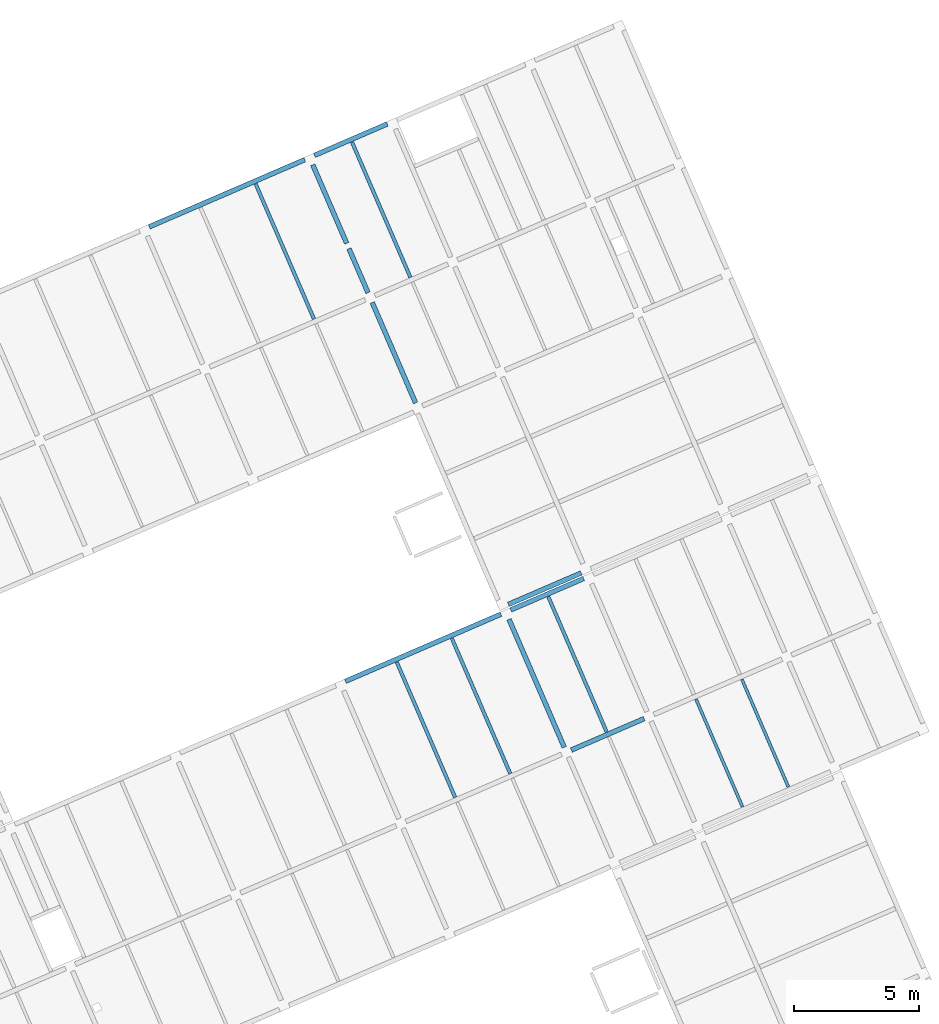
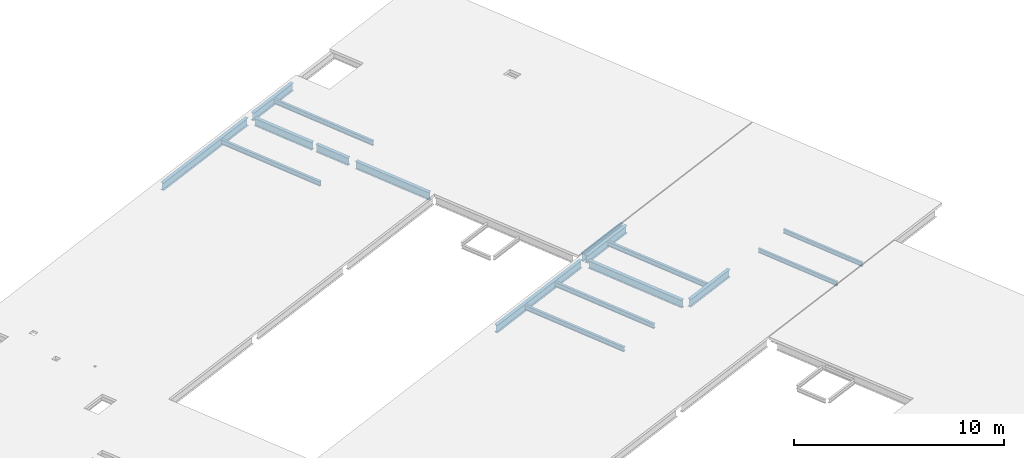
# One storey, part 11 of 15: 17 beams.
"""IFC4 building model written with IfcOpenShell, lengths in metres."""

from ifc_helpers import new_model, entity, si_unit, converted_unit, derived_unit, direction, frame, origin, place, context, subcontext, project, spatial, line, arc, indexed_curve, outline, extrude, source, transform, mapped, material, type_object, type_shapes, element, save


model = new_model("IFC4")

# Units and contexts
model_context = context("Model", 3, precision=1e-05, world=origin(), true_north=direction((6.12323399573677e-17, 1.0)))
body_context = subcontext(model_context, "Body", "Model", "MODEL_VIEW")
ifc_project = project(units=[si_unit("LENGTHUNIT", "METRE"), si_unit("AREAUNIT", "SQUARE_METRE"), si_unit("VOLUMEUNIT", "CUBIC_METRE"), converted_unit("PLANEANGLEUNIT", "DEGREE", entity("IfcPlaneAngleMeasure", 0.0174532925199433), si_unit("PLANEANGLEUNIT", "RADIAN"), dimensions=[0, 0, 0, 0, 0, 0, 0]), si_unit("MASSUNIT", "GRAM", prefix="KILO"), derived_unit("MOMENTOFINERTIAUNIT", [(si_unit("LENGTHUNIT", "METRE"), 4)]), derived_unit("LINEARFORCEUNIT", [(si_unit("MASSUNIT", "GRAM", prefix="KILO"), 1), (si_unit("TIMEUNIT", "SECOND"), -2)]), derived_unit("WARPINGCONSTANTUNIT", [(si_unit("LENGTHUNIT", "METRE"), 6)]), derived_unit("THERMALTRANSMITTANCEUNIT", [(si_unit("MASSUNIT", "GRAM", prefix="KILO"), 1), (si_unit("THERMODYNAMICTEMPERATUREUNIT", "KELVIN"), -1), (si_unit("TIMEUNIT", "SECOND"), -3)]), derived_unit("USERDEFINED", [(si_unit("MASSUNIT", "GRAM", prefix="KILO"), 1), (si_unit("TIMEUNIT", "SECOND"), -2), (si_unit("THERMODYNAMICTEMPERATUREUNIT", "KELVIN"), -1)]), derived_unit("THERMALRESISTANCEUNIT", [(si_unit("MASSUNIT", "GRAM", prefix="KILO"), -1), (si_unit("TIMEUNIT", "SECOND"), 3), (si_unit("THERMODYNAMICTEMPERATUREUNIT", "KELVIN"), 1)])], contexts=[model_context])

# Site, building, storey
site_placement = place(None, origin())
site = spatial("IfcSite", under=ifc_project, at=site_placement, Name="Default", CompositionType="ELEMENT")
building_placement = place(site_placement, frame((12.6613425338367, -82.5732315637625, 317.15), z_axis=(0.0, 0.0, 1.0), x_axis=(-0.396377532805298, 0.918087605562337, 0.0)))
building = spatial("IfcBuilding", under=site, at=building_placement, Name="CESFAM Coyhaique", CompositionType="ELEMENT")
storey_placement = place(building_placement, frame((0.0, 0.0, 8.45000000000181)))
storey = spatial("IfcBuildingStorey", under=building, at=storey_placement, Name="Nivel 3", CompositionType="ELEMENT", Elevation=8.45000000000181)

# Beams
ifc_material = material(Name="Steel, 45-345", Category="Metal")
beam_type_1 = type_object("IfcBeamType", Name="M_W Shapes:W450X190mm", PredefinedType="BEAM", material=ifc_material)
shared_shape_1 = source(origin(), body_context, "Body", "SweptSolid", [
    extrude(outline(indexed_curve([(-0.0949999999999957, -0.225000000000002), (0.0950000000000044, -0.225000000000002), (0.0950000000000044, -0.215350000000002), (0.0105700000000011, -0.215350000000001), (0.00516063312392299, -0.21310936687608), (0.0029200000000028, -0.207700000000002), (0.0029200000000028, 0.207699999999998), (0.00516063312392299, 0.213109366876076), (0.0105700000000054, 0.215349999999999), (0.0950000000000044, 0.215349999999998), (0.0950000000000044, 0.224999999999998), (-0.0949999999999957, 0.224999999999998), (-0.0949999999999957, 0.215349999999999), (-0.0105699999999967, 0.215349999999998), (-0.00516063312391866, 0.213109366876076), (-0.00291999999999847, 0.207699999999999), (-0.00291999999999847, -0.207700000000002), (-0.00516063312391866, -0.21310936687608), (-0.0105699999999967, -0.215350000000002), (-0.0949999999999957, -0.215350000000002)], segments=[line(1, 2, 3, 4), arc(4, 5, 6), line(6, 7), arc(7, 8, 9), line(9, 10, 11, 12, 13, 14), arc(14, 15, 16), line(16, 17), arc(17, 18, 19), line(19, 20, 1)], self_intersect=False)), frame((28.7688534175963, -14.9844495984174, 8.07500000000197), z_axis=(0.0, 1.0, 0.0), x_axis=(-1.0, 0.0, 0.0)), (0.0, 0.0, 1.0), 3.1746),
])
type_shapes(beam_type_1, [shared_shape_1])
beam_1_placement = place(storey_placement, frame((0.0, 0.0, -8.45000000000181)))
element("IfcBeam", 1, at=beam_1_placement, inside=storey, type_object=beam_type_1, Name="M_W Shapes:W450X190mm", ObjectType="M_W Shapes:W450X190mm", PredefinedType="BEAM", context=body_context, shape_type="MappedRepresentation", body=[
    mapped(shared_shape_1, transform((0.0, 0.0, 0.0), scale=1.0)),
])
beam_type_2 = type_object("IfcBeamType", Name="M_W Shapes:W450X190mm", PredefinedType="BEAM", material=ifc_material)
shared_shape_2 = source(origin(), body_context, "Body", "SweptSolid", [
    extrude(outline(indexed_curve([(-0.0949999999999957, -0.225000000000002), (0.0950000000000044, -0.225000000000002), (0.0950000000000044, -0.215350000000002), (0.0105700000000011, -0.215350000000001), (0.00516063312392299, -0.21310936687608), (0.0029200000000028, -0.207700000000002), (0.0029200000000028, 0.207699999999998), (0.00516063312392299, 0.213109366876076), (0.0105700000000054, 0.215349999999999), (0.0950000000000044, 0.215349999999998), (0.0950000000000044, 0.224999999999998), (-0.0949999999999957, 0.224999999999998), (-0.0949999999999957, 0.215349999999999), (-0.0105699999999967, 0.215349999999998), (-0.00516063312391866, 0.213109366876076), (-0.00291999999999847, 0.207699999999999), (-0.00291999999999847, -0.207700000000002), (-0.00516063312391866, -0.21310936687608), (-0.0105699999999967, -0.215350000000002), (-0.0949999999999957, -0.215350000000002)], segments=[line(1, 2, 3, 4), arc(4, 5, 6), line(6, 7), arc(7, 8, 9), line(9, 10, 11, 12, 13, 14), arc(14, 15, 16), line(16, 17), arc(17, 18, 19), line(19, 20, 1)], self_intersect=False)), frame((34.8738534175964, -11.384449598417, 8.07500000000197), z_axis=(0.0, 1.0, 0.0), x_axis=(-1.0, 0.0, 0.0)), (0.0, 0.0, 1.0), 6.7746),
])
type_shapes(beam_type_2, [shared_shape_2])
beam_2_placement = place(storey_placement, frame((0.0, 0.0, -8.45000000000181)))
element("IfcBeam", 2, at=beam_2_placement, inside=storey, type_object=beam_type_2, Name="M_W Shapes:W450X190mm", ObjectType="M_W Shapes:W450X190mm", PredefinedType="BEAM", context=body_context, shape_type="MappedRepresentation", body=[
    mapped(shared_shape_2, transform((0.0, 0.0, 0.0), scale=1.0)),
])
beam_type_3 = type_object("IfcBeamType", Name="M_W Shapes:W450X190mm", PredefinedType="BEAM", material=ifc_material)
shared_shape_3 = source(origin(), body_context, "Body", "SweptSolid", [
    extrude(outline(indexed_curve([(-0.224999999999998, -0.0949999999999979), (-0.215349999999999, -0.0949999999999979), (-0.215349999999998, -0.0105699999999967), (-0.213109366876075, -0.00516063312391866), (-0.207699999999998, -0.0029199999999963), (0.207700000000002, -0.0029199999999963), (0.213109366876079, -0.00516063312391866), (0.215350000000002, -0.0105699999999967), (0.215350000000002, -0.0949999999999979), (0.225000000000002, -0.0949999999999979), (0.225000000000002, 0.0950000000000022), (0.215350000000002, 0.0950000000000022), (0.215350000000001, 0.0105700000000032), (0.213109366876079, 0.00516063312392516), (0.207700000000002, 0.0029200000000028), (-0.207699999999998, 0.0029200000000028), (-0.213109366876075, 0.00516063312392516), (-0.215349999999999, 0.0105700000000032), (-0.215349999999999, 0.0950000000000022), (-0.224999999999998, 0.0950000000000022)], segments=[line(1, 2, 3), arc(3, 4, 5), line(5, 6), arc(6, 7, 8), line(8, 9, 10, 11, 12, 13), arc(13, 14, 15), line(15, 16), arc(16, 17, 18), line(18, 19, 20, 1)], self_intersect=False)), frame((28.981553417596, -11.5971495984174, 8.07500000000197), z_axis=(1.0, 0.0, 0.0), x_axis=(0.0, 0.0, -1.0)), (0.0, 0.0, 1.0), 5.5746),
])
type_shapes(beam_type_3, [shared_shape_3])
beam_3_placement = place(storey_placement, frame((0.0, 0.0, -8.45000000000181)))
element("IfcBeam", 3, at=beam_3_placement, inside=storey, type_object=beam_type_3, Name="M_W Shapes:W450X190mm", ObjectType="M_W Shapes:W450X190mm", PredefinedType="BEAM", context=body_context, shape_type="MappedRepresentation", body=[
    mapped(shared_shape_3, transform((0.0, 0.0, 0.0), scale=1.0)),
])
beam_type_4 = type_object("IfcBeamType", Name="M_W Shapes:W450X190mm", PredefinedType="BEAM", material=ifc_material)
shared_shape_4 = source(origin(), body_context, "Body", "SweptSolid", [
    extrude(outline(indexed_curve([(-0.0950000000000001, -0.225000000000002), (0.0950000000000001, -0.225000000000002), (0.0950000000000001, -0.215350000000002), (0.0105699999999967, -0.215350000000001), (0.00516063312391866, -0.21310936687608), (0.00291999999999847, -0.207700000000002), (0.00291999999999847, 0.207699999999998), (0.00516063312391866, 0.213109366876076), (0.0105700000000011, 0.215349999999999), (0.0950000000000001, 0.215349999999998), (0.0950000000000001, 0.224999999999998), (-0.0950000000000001, 0.224999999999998), (-0.0950000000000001, 0.215349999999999), (-0.0105700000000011, 0.215349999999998), (-0.00516063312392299, 0.213109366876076), (-0.0029200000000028, 0.207699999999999), (-0.0029200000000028, -0.207700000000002), (-0.00516063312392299, -0.21310936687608), (-0.0105700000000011, -0.215350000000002), (-0.0950000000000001, -0.215350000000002)], segments=[line(1, 2, 3, 4), arc(4, 5, 6), line(6, 7), arc(7, 8, 9), line(9, 10, 11, 12, 13, 14), arc(14, 15, 16), line(16, 17), arc(17, 18, 19), line(19, 20, 1)], self_intersect=False)), frame((34.8738534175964, -14.9844495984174, 8.07500000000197), z_axis=(0.0, 1.0, 0.0), x_axis=(-1.0, 0.0, 0.0)), (0.0, 0.0, 1.0), 3.1746),
])
type_shapes(beam_type_4, [shared_shape_4])
beam_4_placement = place(storey_placement, frame((0.0, 0.0, -8.45000000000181)))
element("IfcBeam", 4, at=beam_4_placement, inside=storey, type_object=beam_type_4, Name="M_W Shapes:W450X190mm", ObjectType="M_W Shapes:W450X190mm", PredefinedType="BEAM", context=body_context, shape_type="MappedRepresentation", body=[
    mapped(shared_shape_4, transform((0.0, 0.0, 0.0), scale=1.0)),
])
beam_type_5 = type_object("IfcBeamType", Name="M_W Shapes:W450X190mm", PredefinedType="BEAM", material=ifc_material)
shared_shape_5 = source(origin(), body_context, "Body", "SweptSolid", [
    extrude(outline(indexed_curve([(-0.0949999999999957, -0.225000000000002), (0.0950000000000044, -0.225000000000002), (0.0950000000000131, -0.215350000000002), (0.0105700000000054, -0.215350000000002), (0.00516063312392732, -0.213109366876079), (0.00292000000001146, -0.207700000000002), (0.0029200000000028, 0.207699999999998), (0.00516063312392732, 0.213109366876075), (0.0105700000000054, 0.215349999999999), (0.0950000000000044, 0.215349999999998), (0.0950000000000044, 0.224999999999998), (-0.0949999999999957, 0.224999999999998), (-0.0949999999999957, 0.215349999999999), (-0.0105699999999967, 0.215349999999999), (-0.00516063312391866, 0.213109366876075), (-0.00291999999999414, 0.207699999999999), (-0.00291999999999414, -0.207700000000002), (-0.00516063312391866, -0.213109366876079), (-0.0105699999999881, -0.215350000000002), (-0.0949999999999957, -0.215350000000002)], segments=[line(1, 2, 3, 4), arc(4, 5, 6), line(6, 7), arc(7, 8, 9), line(9, 10, 11, 12, 13, 14), arc(14, 15, 16), line(16, 17), arc(17, 18, 19), line(19, 20, 1)], self_intersect=False)), frame((54.6738534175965, -14.9844495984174, 8.07500000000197), z_axis=(0.0, 1.0, 0.0), x_axis=(-1.0, 0.0, 0.0)), (0.0, 0.0, 1.0), 3.1746),
])
type_shapes(beam_type_5, [shared_shape_5])
beam_5_placement = place(storey_placement, frame((0.0, 0.0, -8.45000000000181)))
element("IfcBeam", 5, at=beam_5_placement, inside=storey, type_object=beam_type_5, Name="M_W Shapes:W450X190mm", ObjectType="M_W Shapes:W450X190mm", PredefinedType="BEAM", context=body_context, shape_type="MappedRepresentation", body=[
    mapped(shared_shape_5, transform((0.0, 0.0, 0.0), scale=1.0)),
])
beam_type_6 = type_object("IfcBeamType", Name="M_W Shapes:W450X190mm", PredefinedType="BEAM", material=ifc_material)
shared_shape_6 = source(origin(), body_context, "Body", "SweptSolid", [
    extrude(outline(indexed_curve([(-0.0950000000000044, -0.225000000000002), (0.0949999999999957, -0.225000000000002), (0.0950000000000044, -0.215350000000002), (0.0105699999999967, -0.215350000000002), (0.00516063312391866, -0.213109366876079), (0.0029200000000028, -0.207700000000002), (0.00291999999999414, 0.207699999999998), (0.00516063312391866, 0.213109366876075), (0.0105699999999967, 0.215349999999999), (0.0949999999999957, 0.215349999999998), (0.0949999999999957, 0.224999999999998), (-0.0950000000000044, 0.224999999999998), (-0.0950000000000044, 0.215349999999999), (-0.0105700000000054, 0.215349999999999), (-0.00516063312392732, 0.213109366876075), (-0.0029200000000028, 0.207699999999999), (-0.0029200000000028, -0.207700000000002), (-0.00516063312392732, -0.213109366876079), (-0.0105699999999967, -0.215350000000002), (-0.0950000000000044, -0.215350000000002)], segments=[line(1, 2, 3, 4), arc(4, 5, 6), line(6, 7), arc(7, 8, 9), line(9, 10, 11, 12, 13, 14), arc(14, 15, 16), line(16, 17), arc(17, 18, 19), line(19, 20, 1)], self_intersect=False)), frame((54.6688534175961, -11.384449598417, 8.07500000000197), z_axis=(0.0, 1.0, 0.0), x_axis=(-1.0, 0.0, 0.0)), (0.0, 0.0, 1.0), 6.7746),
])
type_shapes(beam_type_6, [shared_shape_6])
beam_6_placement = place(storey_placement, frame((0.0, 0.0, -8.45000000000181)))
element("IfcBeam", 6, at=beam_6_placement, inside=storey, type_object=beam_type_6, Name="M_W Shapes:W450X190mm", ObjectType="M_W Shapes:W450X190mm", PredefinedType="BEAM", context=body_context, shape_type="MappedRepresentation", body=[
    mapped(shared_shape_6, transform((0.0, 0.0, 0.0), scale=1.0)),
])
beam_type_7 = type_object("IfcBeamType", Name="M_W Shapes:W450X190mm", PredefinedType="BEAM", material=ifc_material)
shared_shape_7 = source(origin(), body_context, "Body", "SweptSolid", [
    extrude(outline(indexed_curve([(-0.224999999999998, -0.0949999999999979), (-0.215349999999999, -0.0949999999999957), (-0.215349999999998, -0.0105699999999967), (-0.213109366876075, -0.00516063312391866), (-0.207699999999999, -0.0029199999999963), (0.207700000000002, -0.0029199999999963), (0.213109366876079, -0.00516063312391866), (0.215350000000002, -0.0105699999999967), (0.215350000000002, -0.0949999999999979), (0.225000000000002, -0.0949999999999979), (0.225000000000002, 0.0950000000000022), (0.215350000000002, 0.0950000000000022), (0.215350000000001, 0.0105700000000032), (0.213109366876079, 0.00516063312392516), (0.207700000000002, 0.0029200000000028), (-0.207699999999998, 0.0029200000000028), (-0.213109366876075, 0.00516063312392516), (-0.215349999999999, 0.0105700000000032), (-0.215349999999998, 0.0950000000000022), (-0.224999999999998, 0.0950000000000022)], segments=[line(1, 2, 3), arc(3, 4, 5), line(5, 6), arc(6, 7, 8), line(8, 9, 10, 11, 12, 13), arc(13, 14, 15), line(15, 16), arc(16, 17, 18), line(18, 19, 20, 1)], self_intersect=False)), frame((43.9815534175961, -11.5971495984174, 8.07500000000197), z_axis=(1.0, 0.0, 0.0), x_axis=(0.0, 0.0, -1.0)), (0.0, 0.0, 1.0), 4.3746),
])
type_shapes(beam_type_7, [shared_shape_7])
beam_7_placement = place(storey_placement, frame((0.0, 0.0, -8.45000000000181)))
element("IfcBeam", 7, at=beam_7_placement, inside=storey, type_object=beam_type_7, Name="M_W Shapes:W450X190mm", ObjectType="M_W Shapes:W450X190mm", PredefinedType="BEAM", context=body_context, shape_type="MappedRepresentation", body=[
    mapped(shared_shape_7, transform((0.0, 0.0, 0.0), scale=1.0)),
])
beam_type_8 = type_object("IfcBeamType", Name="M_W Shapes:W450X190mm", PredefinedType="BEAM", material=ifc_material)
shared_shape_8 = source(origin(), body_context, "Body", "SweptSolid", [
    extrude(outline(indexed_curve([(-0.224999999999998, -0.0949999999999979), (-0.215349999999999, -0.0949999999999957), (-0.215349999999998, -0.0105699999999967), (-0.213109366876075, -0.00516063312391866), (-0.207699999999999, -0.0029199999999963), (0.207700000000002, -0.0029199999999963), (0.213109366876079, -0.00516063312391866), (0.215350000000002, -0.0105699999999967), (0.215350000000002, -0.0949999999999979), (0.225000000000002, -0.0949999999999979), (0.225000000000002, 0.0950000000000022), (0.215350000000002, 0.0950000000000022), (0.215350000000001, 0.0105700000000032), (0.213109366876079, 0.00516063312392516), (0.207700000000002, 0.0029200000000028), (-0.207699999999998, 0.0029200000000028), (-0.213109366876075, 0.00516063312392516), (-0.215349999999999, 0.0105700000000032), (-0.215349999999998, 0.0950000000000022), (-0.224999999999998, 0.0950000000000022)], segments=[line(1, 2, 3), arc(3, 4, 5), line(5, 6), arc(6, 7, 8), line(8, 9, 10, 11, 12, 13), arc(13, 14, 15), line(15, 16), arc(16, 17, 18), line(18, 19, 20, 1)], self_intersect=False)), frame((48.7815534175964, -11.5971495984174, 8.07500000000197), z_axis=(1.0, 0.0, 0.0), x_axis=(0.0, 0.0, -1.0)), (0.0, 0.0, 1.0), 1.9246),
])
type_shapes(beam_type_8, [shared_shape_8])
beam_8_placement = place(storey_placement, frame((0.0, 0.0, -8.45000000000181)))
element("IfcBeam", 8, at=beam_8_placement, inside=storey, type_object=beam_type_8, Name="M_W Shapes:W450X190mm", ObjectType="M_W Shapes:W450X190mm", PredefinedType="BEAM", context=body_context, shape_type="MappedRepresentation", body=[
    mapped(shared_shape_8, transform((0.0, 0.0, 0.0), scale=1.0)),
])
beam_type_9 = type_object("IfcBeamType", Name="M_W Shapes:W450X190mm", PredefinedType="BEAM", material=ifc_material)
shared_shape_9 = source(origin(), body_context, "Body", "SweptSolid", [
    extrude(outline(indexed_curve([(-0.0950000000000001, -0.225000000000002), (0.0950000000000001, -0.225000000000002), (0.0950000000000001, -0.215350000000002), (0.0105699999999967, -0.215350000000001), (0.00516063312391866, -0.21310936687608), (0.00291999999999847, -0.207700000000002), (0.00291999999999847, 0.207699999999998), (0.00516063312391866, 0.213109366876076), (0.0105700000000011, 0.215349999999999), (0.0950000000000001, 0.215349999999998), (0.0950000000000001, 0.224999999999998), (-0.0950000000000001, 0.224999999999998), (-0.0950000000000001, 0.215349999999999), (-0.0105700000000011, 0.215349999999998), (-0.00516063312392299, 0.213109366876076), (-0.0029200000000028, 0.207699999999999), (-0.0029200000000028, -0.207700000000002), (-0.00516063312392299, -0.21310936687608), (-0.0105700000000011, -0.215350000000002), (-0.0950000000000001, -0.215350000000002)], segments=[line(1, 2, 3, 4), arc(4, 5, 6), line(6, 7), arc(7, 8, 9), line(9, 10, 11, 12, 13, 14), arc(14, 15, 16), line(16, 17), arc(17, 18, 19), line(19, 20, 1)], self_intersect=False)), frame((35.1138534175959, -14.9844495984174, 8.07500000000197), z_axis=(0.0, 1.0, 0.0), x_axis=(-1.0, 0.0, 0.0)), (0.0, 0.0, 1.0), 3.1746),
])
type_shapes(beam_type_9, [shared_shape_9])
beam_9_placement = place(storey_placement, frame((0.0, 0.0, -8.45000000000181)))
element("IfcBeam", 9, at=beam_9_placement, inside=storey, type_object=beam_type_9, Name="M_W Shapes:W450X190mm", ObjectType="M_W Shapes:W450X190mm", PredefinedType="BEAM", context=body_context, shape_type="MappedRepresentation", body=[
    mapped(shared_shape_9, transform((0.0, 0.0, 0.0), scale=1.0)),
])
beam_type_10 = type_object("IfcBeamType", Name="M_W Shapes:W450X190mm", PredefinedType="BEAM", material=ifc_material)
shared_shape_10 = source(origin(), body_context, "Body", "SweptSolid", [
    extrude(outline(indexed_curve([(-0.224999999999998, -0.0949999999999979), (-0.215349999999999, -0.0949999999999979), (-0.215349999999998, -0.0105699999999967), (-0.213109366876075, -0.00516063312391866), (-0.207699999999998, -0.0029199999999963), (0.207700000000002, -0.0029199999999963), (0.213109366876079, -0.00516063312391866), (0.215350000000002, -0.0105699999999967), (0.215350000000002, -0.0949999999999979), (0.225000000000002, -0.0949999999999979), (0.225000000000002, 0.0950000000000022), (0.215350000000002, 0.0950000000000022), (0.215350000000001, 0.0105700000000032), (0.213109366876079, 0.00516063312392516), (0.207700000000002, 0.0029200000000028), (-0.207699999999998, 0.0029200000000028), (-0.213109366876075, 0.00516063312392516), (-0.215349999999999, 0.0105700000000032), (-0.215349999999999, 0.0950000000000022), (-0.224999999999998, 0.0950000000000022)], segments=[line(1, 2, 3), arc(3, 4, 5), line(5, 6), arc(6, 7, 8), line(8, 9, 10, 11, 12, 13), arc(13, 14, 15), line(15, 16), arc(16, 17, 18), line(18, 19, 20, 1)], self_intersect=False)), frame((50.9315534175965, -11.5971495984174, 8.07500000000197), z_axis=(1.0, 0.0, 0.0), x_axis=(0.0, 0.0, -1.0)), (0.0, 0.0, 1.0), 3.4246),
])
type_shapes(beam_type_10, [shared_shape_10])
beam_10_placement = place(storey_placement, frame((0.0, 0.0, -8.45000000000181)))
element("IfcBeam", 10, at=beam_10_placement, inside=storey, type_object=beam_type_10, Name="M_W Shapes:W450X190mm", ObjectType="M_W Shapes:W450X190mm", PredefinedType="BEAM", context=body_context, shape_type="MappedRepresentation", body=[
    mapped(shared_shape_10, transform((0.0, 0.0, 0.0), scale=1.0)),
])
beam_type_11 = type_object("IfcBeamType", Name="M_W Shapes:W270X140mm", PredefinedType="BEAM", material=ifc_material)
shared_shape_11 = source(origin(), body_context, "Body", "SweptSolid", [
    extrude(outline(indexed_curve([(-0.135000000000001, -0.0699999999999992), (-0.125350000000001, -0.0699999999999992), (-0.125350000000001, -0.0105699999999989), (-0.123109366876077, -0.00516063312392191), (-0.117700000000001, -0.00291999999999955), (0.117699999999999, -0.00291999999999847), (0.123109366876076, -0.00516063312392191), (0.12535, -0.0105699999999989), (0.12535, -0.0699999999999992), (0.135, -0.0699999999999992), (0.135, 0.0700000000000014), (0.12535, 0.0700000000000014), (0.12535, 0.0105700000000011), (0.123109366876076, 0.00516063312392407), (0.117699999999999, 0.00292000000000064), (-0.1177, 0.00292000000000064), (-0.123109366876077, 0.00516063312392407), (-0.125350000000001, 0.01057), (-0.125350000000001, 0.0700000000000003), (-0.135, 0.0700000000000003)], segments=[line(1, 2, 3), arc(3, 4, 5), line(5, 6), arc(6, 7, 8), line(8, 9, 10, 11, 12, 13), arc(13, 14, 15), line(15, 16), arc(16, 17, 18), line(18, 19, 20, 1)], self_intersect=False)), frame((28.8765534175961, -6.79727015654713, 8.16500000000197), z_axis=(1.0, 0.0, 0.0), x_axis=(0.0, 0.0, -1.0)), (0.0, 0.0, 1.0), 5.8896),
])
type_shapes(beam_type_11, [shared_shape_11])
beam_11_placement = place(storey_placement, frame((0.0, 0.0, -8.45000000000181)))
element("IfcBeam", 11, at=beam_11_placement, inside=storey, type_object=beam_type_11, Name="M_W Shapes:W270X140mm", ObjectType="M_W Shapes:W270X140mm", PredefinedType="BEAM", context=body_context, shape_type="MappedRepresentation", body=[
    mapped(shared_shape_11, transform((0.0, 0.0, 0.0), scale=1.0)),
])
beam_type_12 = type_object("IfcBeamType", Name="M_W Shapes:W270X140mm", PredefinedType="BEAM", material=ifc_material)
shared_shape_12 = source(origin(), body_context, "Body", "SweptSolid", [
    extrude(outline(indexed_curve([(-0.135000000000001, -0.0699999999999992), (-0.125350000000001, -0.0699999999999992), (-0.125350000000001, -0.0105699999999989), (-0.123109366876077, -0.00516063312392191), (-0.117700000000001, -0.00291999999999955), (0.117699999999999, -0.00291999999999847), (0.123109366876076, -0.00516063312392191), (0.12535, -0.0105699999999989), (0.12535, -0.0699999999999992), (0.135, -0.0699999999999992), (0.135, 0.0700000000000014), (0.12535, 0.0700000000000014), (0.12535, 0.0105700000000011), (0.123109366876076, 0.00516063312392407), (0.117699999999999, 0.00292000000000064), (-0.1177, 0.00292000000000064), (-0.123109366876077, 0.00516063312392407), (-0.125350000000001, 0.01057), (-0.125350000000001, 0.0700000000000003), (-0.135, 0.0700000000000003)], segments=[line(1, 2, 3), arc(3, 4, 5), line(5, 6), arc(6, 7, 8), line(8, 9, 10, 11, 12, 13), arc(13, 14, 15), line(15, 16), arc(16, 17, 18), line(18, 19, 20, 1)], self_intersect=False)), frame((28.8765534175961, -9.19727015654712, 8.16500000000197), z_axis=(1.0, 0.0, 0.0), x_axis=(0.0, 0.0, -1.0)), (0.0, 0.0, 1.0), 5.8896),
])
type_shapes(beam_type_12, [shared_shape_12])
beam_12_placement = place(storey_placement, frame((0.0, 0.0, -8.45000000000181)))
element("IfcBeam", 12, at=beam_12_placement, inside=storey, type_object=beam_type_12, Name="M_W Shapes:W270X140mm", ObjectType="M_W Shapes:W270X140mm", PredefinedType="BEAM", context=body_context, shape_type="MappedRepresentation", body=[
    mapped(shared_shape_12, transform((0.0, 0.0, 0.0), scale=1.0)),
])
beam_type_13 = type_object("IfcBeamType", Name="M_W Shapes:W270X140mm", PredefinedType="BEAM", material=ifc_material)
shared_shape_13 = source(origin(), body_context, "Body", "SweptSolid", [
    extrude(outline(indexed_curve([(-0.135000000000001, -0.0699999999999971), (-0.125350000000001, -0.0699999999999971), (-0.12535, -0.0105699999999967), (-0.123109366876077, -0.00516063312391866), (-0.117700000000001, -0.0029199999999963), (0.117699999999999, -0.0029199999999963), (0.123109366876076, -0.00516063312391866), (0.12535, -0.0105699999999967), (0.12535, -0.0699999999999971), (0.135, -0.0699999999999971), (0.135, 0.0700000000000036), (0.12535, 0.0700000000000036), (0.125349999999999, 0.0105700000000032), (0.123109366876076, 0.00516063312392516), (0.117699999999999, 0.0029200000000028), (-0.1177, 0.0029200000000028), (-0.123109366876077, 0.00516063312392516), (-0.125350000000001, 0.0105700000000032), (-0.125350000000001, 0.0700000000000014), (-0.135, 0.0700000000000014)], segments=[line(1, 2, 3), arc(3, 4, 5), line(5, 6), arc(6, 7, 8), line(8, 9, 10, 11, 12, 13), arc(13, 14, 15), line(15, 16), arc(16, 17, 18), line(18, 19, 20, 1)], self_intersect=False)), frame((28.8765534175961, -13.3972701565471, 8.16500000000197), z_axis=(1.0, 0.0, 0.0), x_axis=(0.0, 0.0, -1.0)), (0.0, 0.0, 1.0), 5.8896),
])
type_shapes(beam_type_13, [shared_shape_13])
beam_13_placement = place(storey_placement, frame((0.0, 0.0, -8.45000000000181)))
element("IfcBeam", 13, at=beam_13_placement, inside=storey, type_object=beam_type_13, Name="M_W Shapes:W270X140mm", ObjectType="M_W Shapes:W270X140mm", PredefinedType="BEAM", context=body_context, shape_type="MappedRepresentation", body=[
    mapped(shared_shape_13, transform((0.0, 0.0, 0.0), scale=1.0)),
])
beam_type_14 = type_object("IfcBeamType", Name="M_W Shapes:W240X120mm", PredefinedType="BEAM", material=ifc_material)
shared_shape_14 = source(origin(), body_context, "Body", "SweptSolid", [
    extrude(outline(indexed_curve([(-0.119999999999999, -0.0599999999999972), (-0.11035, -0.0599999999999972), (-0.110349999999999, -0.0105699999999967), (-0.108109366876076, -0.00516063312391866), (-0.102699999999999, -0.0029199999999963), (0.1027, -0.0029199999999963), (0.108109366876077, -0.00516063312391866), (0.11035, -0.0105699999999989), (0.110350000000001, -0.0599999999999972), (0.120000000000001, -0.0599999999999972), (0.120000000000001, 0.0600000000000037), (0.11035, 0.0600000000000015), (0.11035, 0.0105700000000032), (0.108109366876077, 0.00516063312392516), (0.102699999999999, 0.0029200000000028), (-0.102699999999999, 0.0029200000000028), (-0.108109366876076, 0.00516063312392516), (-0.11035, 0.0105700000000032), (-0.110349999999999, 0.0600000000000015), (-0.119999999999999, 0.0600000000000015)], segments=[line(1, 2, 3), arc(3, 4, 5), line(5, 6), arc(6, 7, 8), line(8, 9, 10, 11, 12, 13), arc(13, 14, 15), line(15, 16), arc(16, 17, 18), line(18, 19, 20, 1)], self_intersect=False)), frame((23.9715534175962, -17.1972701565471, 8.18000000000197), z_axis=(1.0, 0.0, 0.0), x_axis=(0.0, 0.0, -1.0)), (0.0, 0.0, 1.0), 4.6896),
])
type_shapes(beam_type_14, [shared_shape_14])
beam_14_placement = place(storey_placement, frame((0.0, 0.0, -8.45000000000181)))
element("IfcBeam", 14, at=beam_14_placement, inside=storey, type_object=beam_type_14, Name="M_W Shapes:W240X120mm", ObjectType="M_W Shapes:W240X120mm", PredefinedType="BEAM", context=body_context, shape_type="MappedRepresentation", body=[
    mapped(shared_shape_14, transform((0.0, 0.0, 0.0), scale=1.0)),
])
beam_type_15 = type_object("IfcBeamType", Name="M_W Shapes:W240X120mm", PredefinedType="BEAM", material=ifc_material)
shared_shape_15 = source(origin(), body_context, "Body", "SweptSolid", [
    extrude(outline(indexed_curve([(-0.119999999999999, -0.0599999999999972), (-0.11035, -0.0599999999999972), (-0.110349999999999, -0.0105699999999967), (-0.108109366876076, -0.00516063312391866), (-0.102699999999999, -0.0029199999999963), (0.1027, -0.0029199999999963), (0.108109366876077, -0.00516063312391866), (0.11035, -0.0105699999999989), (0.110350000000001, -0.0599999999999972), (0.120000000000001, -0.0599999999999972), (0.120000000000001, 0.0600000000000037), (0.11035, 0.0600000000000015), (0.11035, 0.0105700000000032), (0.108109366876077, 0.00516063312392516), (0.102699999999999, 0.0029200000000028), (-0.102699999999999, 0.0029200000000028), (-0.108109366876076, 0.00516063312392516), (-0.11035, 0.0105700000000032), (-0.110349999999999, 0.0600000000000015), (-0.119999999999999, 0.0600000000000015)], segments=[line(1, 2, 3), arc(3, 4, 5), line(5, 6), arc(6, 7, 8), line(8, 9, 10, 11, 12, 13), arc(13, 14, 15), line(15, 16), arc(16, 17, 18), line(18, 19, 20, 1)], self_intersect=False)), frame((23.9715534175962, -19.1972701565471, 8.18000000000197), z_axis=(1.0, 0.0, 0.0), x_axis=(0.0, 0.0, -1.0)), (0.0, 0.0, 1.0), 4.6896),
])
type_shapes(beam_type_15, [shared_shape_15])
beam_15_placement = place(storey_placement, frame((0.0, 0.0, -8.45000000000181)))
element("IfcBeam", 15, at=beam_15_placement, inside=storey, type_object=beam_type_15, Name="M_W Shapes:W240X120mm", ObjectType="M_W Shapes:W240X120mm", PredefinedType="BEAM", context=body_context, shape_type="MappedRepresentation", body=[
    mapped(shared_shape_15, transform((0.0, 0.0, 0.0), scale=1.0)),
])
beam_type_16 = type_object("IfcBeamType", Name="M_W Shapes:W270X140mm", PredefinedType="BEAM", material=ifc_material)
shared_shape_16 = source(origin(), body_context, "Body", "SweptSolid", [
    extrude(outline(indexed_curve([(-0.135000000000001, -0.0700000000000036), (-0.125350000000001, -0.0700000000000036), (-0.12535, -0.0105700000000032), (-0.123109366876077, -0.00516063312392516), (-0.117700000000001, -0.0029200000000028), (0.117699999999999, -0.0029200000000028), (0.123109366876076, -0.00516063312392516), (0.12535, -0.0105700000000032), (0.12535, -0.0700000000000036), (0.135, -0.0700000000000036), (0.135, 0.0699999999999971), (0.12535, 0.0699999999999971), (0.125349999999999, 0.0105699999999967), (0.123109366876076, 0.00516063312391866), (0.117699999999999, 0.0029199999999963), (-0.1177, 0.0029199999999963), (-0.123109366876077, 0.00516063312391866), (-0.125350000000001, 0.0105699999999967), (-0.125350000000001, 0.0699999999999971), (-0.135, 0.0699999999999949)], segments=[line(1, 2, 3), arc(3, 4, 5), line(5, 6), arc(6, 7, 8), line(8, 9, 10, 11, 12, 13), arc(13, 14, 15), line(15, 16), arc(16, 17, 18), line(18, 19, 20, 1)], self_intersect=False)), frame((48.6765534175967, -13.397270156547, 8.16500000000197), z_axis=(1.0, 0.0, 0.0), x_axis=(0.0, 0.0, -1.0)), (0.0, 0.0, 1.0), 5.8896),
])
type_shapes(beam_type_16, [shared_shape_16])
beam_16_placement = place(storey_placement, frame((0.0, 0.0, -8.45000000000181)))
element("IfcBeam", 16, at=beam_16_placement, inside=storey, type_object=beam_type_16, Name="M_W Shapes:W270X140mm", ObjectType="M_W Shapes:W270X140mm", PredefinedType="BEAM", context=body_context, shape_type="MappedRepresentation", body=[
    mapped(shared_shape_16, transform((0.0, 0.0, 0.0), scale=1.0)),
])
beam_type_17 = type_object("IfcBeamType", Name="M_W Shapes:W270X140mm", PredefinedType="BEAM", material=ifc_material)
shared_shape_17 = source(origin(), body_context, "Body", "SweptSolid", [
    extrude(outline(indexed_curve([(-0.135, -0.0699999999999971), (-0.125350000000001, -0.0699999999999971), (-0.125350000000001, -0.0105699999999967), (-0.123109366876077, -0.00516063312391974), (-0.1177, -0.00291999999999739), (0.117699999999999, -0.0029199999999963), (0.123109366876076, -0.00516063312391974), (0.12535, -0.0105699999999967), (0.12535, -0.0699999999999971), (0.135, -0.0699999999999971), (0.135, 0.0700000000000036), (0.12535, 0.0700000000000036), (0.12535, 0.0105700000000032), (0.123109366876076, 0.00516063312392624), (0.117699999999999, 0.0029200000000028), (-0.1177, 0.0029200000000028), (-0.123109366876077, 0.00516063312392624), (-0.125350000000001, 0.0105700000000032), (-0.125350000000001, 0.0700000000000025), (-0.135, 0.0700000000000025)], segments=[line(1, 2, 3), arc(3, 4, 5), line(5, 6), arc(6, 7, 8), line(8, 9, 10, 11, 12, 13), arc(13, 14, 15), line(15, 16), arc(16, 17, 18), line(18, 19, 20, 1)], self_intersect=False)), frame((48.6765534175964, -9.19727015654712, 8.16500000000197), z_axis=(1.0, 0.0, 0.0), x_axis=(0.0, 0.0, -1.0)), (0.0, 0.0, 1.0), 5.88460000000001),
])
type_shapes(beam_type_17, [shared_shape_17])
beam_17_placement = place(storey_placement, frame((0.0, 0.0, -8.45000000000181)))
element("IfcBeam", 17, at=beam_17_placement, inside=storey, type_object=beam_type_17, Name="M_W Shapes:W270X140mm", ObjectType="M_W Shapes:W270X140mm", PredefinedType="BEAM", context=body_context, shape_type="MappedRepresentation", body=[
    mapped(shared_shape_17, transform((0.0, 0.0, 0.0), scale=1.0)),
])

save(model, "model.ifc")
